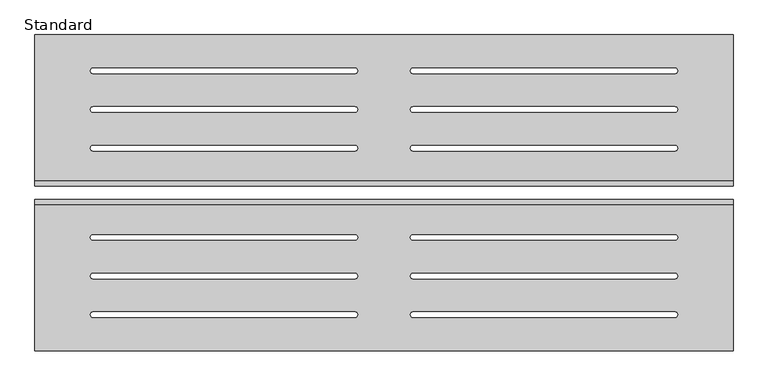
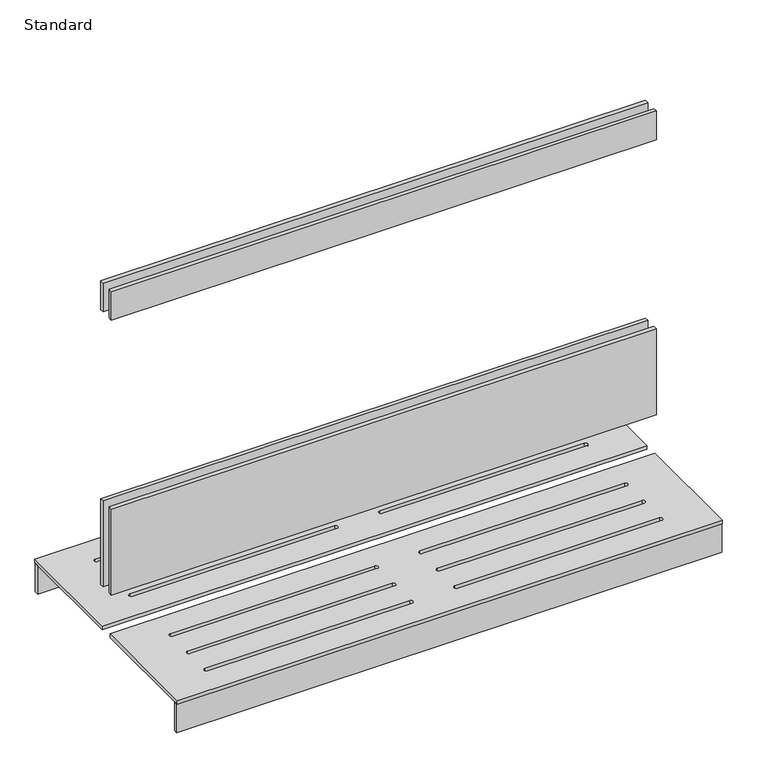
"""IFC4 building model written with IfcOpenShell, lengths in millimetres: furniture geometry, X_Bench-Island-Duracube-Standard : Standard."""

from ifc_helpers import new_model, si_unit, point, frame, frame_2d, origin, place, context, project, spatial, polyline, circle_curve, trimmed, segment, composite_curve, outline, extrude, source, transform, mapped, element, save


def standard_a5d48519(model_context):
    return source(origin(), model_context, "Body", "SweptSolid", [
        extrude(outline(polyline([(944.7003264, -377.0), (944.7003264, -390.0), (-855.2996736, -390.0), (-855.2996736, -377.0), (944.7003264, -377.0)])), frame((0.0, 0.0, 1570.0), z_axis=(0.0, 0.0, 1.0), x_axis=(1.0, 0.0, 0.0)), (0.0, 0.0, 1.0), 100.0),
        extrude(outline(polyline([(944.7003264, -425.0), (944.7003264, -438.0), (-855.2996736, -438.0), (-855.2996736, -425.0), (944.7003264, -425.0)])), frame((0.0, 0.0, 1570.0), z_axis=(0.0, 0.0, 1.0), x_axis=(1.0, 0.0, 0.0)), (0.0, 0.0, 1.0), 100.0),
        extrude(outline(polyline([(944.7003264, -2.5), (944.7003264, -15.5), (-855.2996736, -15.5), (-855.2996736, -2.5), (944.7003264, -2.5)])), frame((0.0, 0.0, 357.0), z_axis=(0.0, 0.0, 1.0), x_axis=(1.0, 0.0, 0.0)), (0.0, 0.0, 1.0), 100.0),
        extrude(outline(polyline([(944.7003264, -799.5), (944.7003264, -812.5), (-855.2996736, -812.5), (-855.2996736, -799.5), (944.7003264, -799.5)])), frame((0.0, 0.0, 357.0), z_axis=(0.0, 0.0, 1.0), x_axis=(1.0, 0.0, 0.0)), (0.0, 0.0, 1.0), 100.0),
        extrude(outline(polyline([(944.7003264, -425.0), (944.7003264, -438.0), (-855.2996736, -438.0), (-855.2996736, -425.0), (944.7003264, -425.0)])), frame((0.0, 0.0, 610.0), z_axis=(0.0, 0.0, 1.0), x_axis=(1.0, 0.0, 0.0)), (0.0, 0.0, 1.0), 300.0),
        extrude(outline(polyline([(944.7003264, -377.0), (944.7003264, -390.0), (-855.2996736, -390.0), (-855.2996736, -377.0), (944.7003264, -377.0)])), frame((0.0, 0.0, 610.0), z_axis=(0.0, 0.0, 1.0), x_axis=(1.0, 0.0, 0.0)), (0.0, 0.0, 1.0), 300.0),
        extrude(outline(polyline([(944.7003264, 0.0), (944.7003264, -385.0), (-855.2996736, -385.0), (-855.2996736, 0.0), (944.7003264, 0.0)]), holes=[composite_curve([segment(polyline([(-30.2996736, -85.75), (-705.2996736, -85.75)]), True, "CONTINUOUS"), segment(trimmed(circle_curve(frame_2d((-705.2996736, -92.75)), 7.0), [point((-705.2996736, -85.75))], [point((-705.2996736, -99.75))], True, "CARTESIAN"), True, "CONTINUOUS"), segment(polyline([(-705.2996736, -99.75), (-30.2996736, -99.75)]), True, "CONTINUOUS"), segment(trimmed(circle_curve(frame_2d((-30.2996736, -92.75)), 7.0), [point((-30.2996736, -99.75))], [point((-30.2996736, -85.75))], True, "CARTESIAN"), True, "CONTINUOUS")], self_intersect=False), composite_curve([segment(polyline([(-30.2996736, -185.5), (-705.2996736, -185.5)]), True, "CONTINUOUS"), segment(trimmed(circle_curve(frame_2d((-705.2996736, -192.5)), 7.0), [point((-705.2996736, -185.5))], [point((-705.2996736, -199.5))], True, "CARTESIAN"), True, "CONTINUOUS"), segment(polyline([(-705.2996736, -199.5), (-30.2996736, -199.5)]), True, "CONTINUOUS"), segment(trimmed(circle_curve(frame_2d((-30.2996736, -192.5)), 7.0), [point((-30.2996736, -199.5))], [point((-30.2996736, -185.5))], True, "CARTESIAN"), True, "CONTINUOUS")], self_intersect=False), composite_curve([segment(polyline([(-30.2996736, -285.25), (-705.2996736, -285.25)]), True, "CONTINUOUS"), segment(trimmed(circle_curve(frame_2d((-705.2996736, -292.25)), 7.0), [point((-705.2996736, -285.25))], [point((-705.2996736, -299.25))], True, "CARTESIAN"), True, "CONTINUOUS"), segment(polyline([(-705.2996736, -299.25), (-30.2996736, -299.25)]), True, "CONTINUOUS"), segment(trimmed(circle_curve(frame_2d((-30.2996736, -292.25)), 7.0), [point((-30.2996736, -299.25))], [point((-30.2996736, -285.25))], True, "CARTESIAN"), True, "CONTINUOUS")], self_intersect=False), composite_curve([segment(polyline([(794.7003264, -85.75), (119.7003264, -85.75)]), True, "CONTINUOUS"), segment(trimmed(circle_curve(frame_2d((119.7003264, -92.75)), 7.0), [point((119.7003264, -85.75))], [point((119.7003264, -99.75))], True, "CARTESIAN"), True, "CONTINUOUS"), segment(polyline([(119.7003264, -99.75), (794.7003264, -99.75)]), True, "CONTINUOUS"), segment(trimmed(circle_curve(frame_2d((794.7003264, -92.75)), 7.0), [point((794.7003264, -99.75))], [point((794.7003264, -85.75))], True, "CARTESIAN"), True, "CONTINUOUS")], self_intersect=False), composite_curve([segment(polyline([(794.7003264, -185.5), (119.7003264, -185.5)]), True, "CONTINUOUS"), segment(trimmed(circle_curve(frame_2d((119.7003264, -192.5)), 7.0), [point((119.7003264, -185.5))], [point((119.7003264, -199.5))], True, "CARTESIAN"), True, "CONTINUOUS"), segment(polyline([(119.7003264, -199.5), (794.7003264, -199.5)]), True, "CONTINUOUS"), segment(trimmed(circle_curve(frame_2d((794.7003264, -192.5)), 7.0), [point((794.7003264, -199.5))], [point((794.7003264, -185.5))], True, "CARTESIAN"), True, "CONTINUOUS")], self_intersect=False), composite_curve([segment(polyline([(794.7003264, -285.25), (119.7003264, -285.25)]), True, "CONTINUOUS"), segment(trimmed(circle_curve(frame_2d((119.7003264, -292.25)), 7.0), [point((119.7003264, -285.25))], [point((119.7003264, -299.25))], True, "CARTESIAN"), True, "CONTINUOUS"), segment(polyline([(119.7003264, -299.25), (794.7003264, -299.25)]), True, "CONTINUOUS"), segment(trimmed(circle_curve(frame_2d((794.7003264, -292.25)), 7.0), [point((794.7003264, -299.25))], [point((794.7003264, -285.25))], True, "CARTESIAN"), True, "CONTINUOUS")], self_intersect=False)]), frame((0.0, 0.0, 457.0), z_axis=(0.0, 0.0, 1.0), x_axis=(1.0, 0.0, 0.0)), (0.0, 0.0, 1.0), 13.0),
        extrude(outline(polyline([(944.7003264, -815.0), (-855.2996736, -815.0), (-855.2996736, -430.0), (944.7003264, -430.0), (944.7003264, -815.0)]), holes=[composite_curve([segment(polyline([(-30.2996736, -515.75), (-705.2996736, -515.75)]), True, "CONTINUOUS"), segment(trimmed(circle_curve(frame_2d((-705.2996736, -522.75)), 7.0), [point((-705.2996736, -515.75))], [point((-705.2996736, -529.75))], True, "CARTESIAN"), True, "CONTINUOUS"), segment(polyline([(-705.2996736, -529.75), (-30.2996736, -529.75)]), True, "CONTINUOUS"), segment(trimmed(circle_curve(frame_2d((-30.2996736, -522.75)), 7.0), [point((-30.2996736, -529.75))], [point((-30.2996736, -515.75))], True, "CARTESIAN"), True, "CONTINUOUS")], self_intersect=False), composite_curve([segment(polyline([(-30.2996736, -615.5), (-705.2996736, -615.5)]), True, "CONTINUOUS"), segment(trimmed(circle_curve(frame_2d((-705.2996736, -622.5)), 7.0), [point((-705.2996736, -615.5))], [point((-705.2996736, -629.5))], True, "CARTESIAN"), True, "CONTINUOUS"), segment(polyline([(-705.2996736, -629.5), (-30.2996736, -629.5)]), True, "CONTINUOUS"), segment(trimmed(circle_curve(frame_2d((-30.2996736, -622.5)), 7.0), [point((-30.2996736, -629.5))], [point((-30.2996736, -615.5))], True, "CARTESIAN"), True, "CONTINUOUS")], self_intersect=False), composite_curve([segment(polyline([(-30.2996736, -715.25), (-705.2996736, -715.25)]), True, "CONTINUOUS"), segment(trimmed(circle_curve(frame_2d((-705.2996736, -722.25)), 7.0), [point((-705.2996736, -715.25))], [point((-705.2996736, -729.25))], True, "CARTESIAN"), True, "CONTINUOUS"), segment(polyline([(-705.2996736, -729.25), (-30.2996736, -729.25)]), True, "CONTINUOUS"), segment(trimmed(circle_curve(frame_2d((-30.2996736, -722.25)), 7.0), [point((-30.2996736, -729.25))], [point((-30.2996736, -715.25))], True, "CARTESIAN"), True, "CONTINUOUS")], self_intersect=False), composite_curve([segment(polyline([(794.7003264, -515.75), (119.7003264, -515.75)]), True, "CONTINUOUS"), segment(trimmed(circle_curve(frame_2d((119.7003264, -522.75)), 7.0), [point((119.7003264, -515.75))], [point((119.7003264, -529.75))], True, "CARTESIAN"), True, "CONTINUOUS"), segment(polyline([(119.7003264, -529.75), (794.7003264, -529.75)]), True, "CONTINUOUS"), segment(trimmed(circle_curve(frame_2d((794.7003264, -522.75)), 7.0), [point((794.7003264, -529.75))], [point((794.7003264, -515.75))], True, "CARTESIAN"), True, "CONTINUOUS")], self_intersect=False), composite_curve([segment(polyline([(794.7003264, -615.5), (119.7003264, -615.5)]), True, "CONTINUOUS"), segment(trimmed(circle_curve(frame_2d((119.7003264, -622.5)), 7.0), [point((119.7003264, -615.5))], [point((119.7003264, -629.5))], True, "CARTESIAN"), True, "CONTINUOUS"), segment(polyline([(119.7003264, -629.5), (794.7003264, -629.5)]), True, "CONTINUOUS"), segment(trimmed(circle_curve(frame_2d((794.7003264, -622.5)), 7.0), [point((794.7003264, -629.5))], [point((794.7003264, -615.5))], True, "CARTESIAN"), True, "CONTINUOUS")], self_intersect=False), composite_curve([segment(polyline([(794.7003264, -715.25), (119.7003264, -715.25)]), True, "CONTINUOUS"), segment(trimmed(circle_curve(frame_2d((119.7003264, -722.25)), 7.0), [point((119.7003264, -715.25))], [point((119.7003264, -729.25))], True, "CARTESIAN"), True, "CONTINUOUS"), segment(polyline([(119.7003264, -729.25), (794.7003264, -729.25)]), True, "CONTINUOUS"), segment(trimmed(circle_curve(frame_2d((794.7003264, -722.25)), 7.0), [point((794.7003264, -729.25))], [point((794.7003264, -715.25))], True, "CARTESIAN"), True, "CONTINUOUS")], self_intersect=False)]), frame((0.0, 0.0, 457.0), z_axis=(0.0, 0.0, 1.0), x_axis=(1.0, 0.0, 0.0)), (0.0, 0.0, 1.0), 13.0),
    ])


if __name__ == "__main__":
    model = new_model("IFC4")
    model_context = context("Model", 3, world=origin())
    ifc_project = project(units=[si_unit("LENGTHUNIT", "METRE", prefix="MILLI")], contexts=[model_context])
    site = spatial("IfcSite", under=ifc_project)
    building = spatial("IfcBuilding", under=site)
    placement = place(None, origin())
    standard_shape = standard_a5d48519(model_context)
    element("IfcFurniture", 1, ObjectType="X_Bench-Island-Duracube-Standard : Standard", at=placement, inside=building, context=model_context, shape_type="MappedRepresentation", body=[
        mapped(standard_shape, transform((0.0, 0.0, 0.0), x_axis=(1.0, 0.0, 0.0), y_axis=(0.0, 1.0, 0.0), z_axis=(0.0, 0.0, 1.0))),
    ])
    save(model, "model.ifc")
